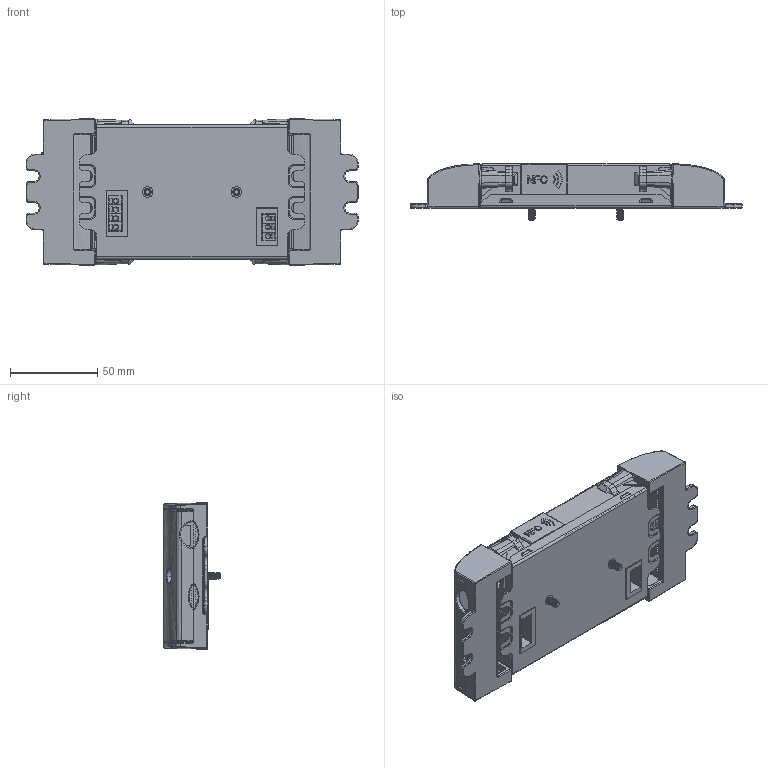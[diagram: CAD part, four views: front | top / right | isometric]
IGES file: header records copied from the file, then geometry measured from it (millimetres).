
Start section: SolidWorks IGES file using analytic representation for surfaces
Global section: file name: C:\Users\jiaqichen\Desktop\New folder\Vesta Flex Driver_Brick (Strain Relief).IGS; native system: SolidWorks 2020; preprocessor: SolidWorks 2020; author: jiaqichen; date: 200922.181500; units: millimetre
Bounding box: 190.08 x 32.2 x 83.91 mm (x, y, z)
Volume: 72372.6 mm3; surface area: 110519.7 mm2
Topology: 18 solids, 18 shells, 4040 faces, 10810 edges, 6815 vertices
Faces by surface type: plane 2478, revolution 1252, bspline 310
